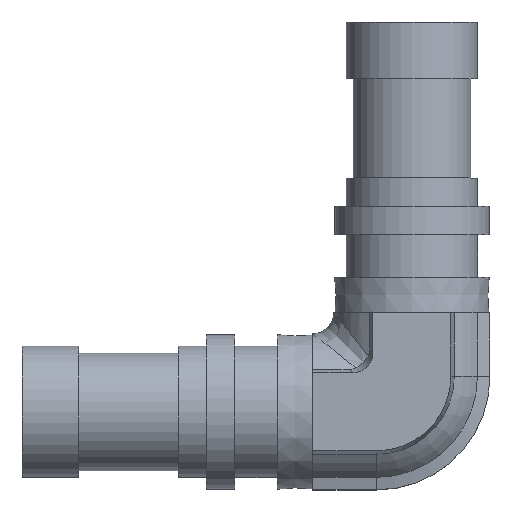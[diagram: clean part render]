
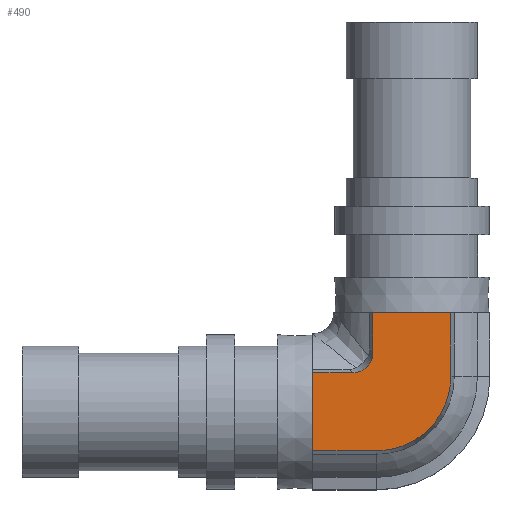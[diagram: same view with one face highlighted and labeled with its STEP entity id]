
A CAD part, top view. The second image highlights one B-rep face of the part: STEP entity #490.
In plain terms, the highlighted planar face has unit normal (0, 0, 1).
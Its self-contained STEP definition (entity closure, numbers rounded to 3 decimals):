
#37 = VECTOR ( 'NONE', #1076, 1000. ) ;
#40 = VECTOR ( 'NONE', #1085, 1000. ) ;
#104 = VECTOR ( 'NONE', #1067, 1000. ) ;
#137 =( BOUNDED_CURVE ( )  B_SPLINE_CURVE ( 3, ( #1053, #1054, #1055, #1056 ),
 .UNSPECIFIED., .F., .T. ) 
 B_SPLINE_CURVE_WITH_KNOTS ( ( 4, 4 ),
 ( 5.531, 7.035 ),
 .UNSPECIFIED. ) 
 CURVE ( )  GEOMETRIC_REPRESENTATION_ITEM ( )  RATIONAL_B_SPLINE_CURVE ( ( 1., 0.82, 0.82, 1. ) ) 
 REPRESENTATION_ITEM ( '' )  );
#140 = AXIS2_PLACEMENT_3D ( 'NONE', #1064, #1089, #1090 ) ;
#268 = VERTEX_POINT ( 'NONE', #1005 ) ;
#270 = VERTEX_POINT ( 'NONE', #1007 ) ;
#272 = VERTEX_POINT ( 'NONE', #1009 ) ;
#275 = VERTEX_POINT ( 'NONE', #1012 ) ;
#277 = VERTEX_POINT ( 'NONE', #1014 ) ;
#278 = VERTEX_POINT ( 'NONE', #1015 ) ;
#281 = VERTEX_POINT ( 'NONE', #1018 ) ;
#303 = VERTEX_POINT ( 'NONE', #1032 ) ;
#310 = EDGE_CURVE ( 'NONE', #268, #281, #137, .T. ) ;
#313 = EDGE_CURVE ( 'NONE', #278, #281, #1065, .T. ) ;
#316 = EDGE_CURVE ( 'NONE', #270, #278, #1074, .T. ) ;
#319 = EDGE_CURVE ( 'NONE', #270, #277, #1083, .T. ) ;
#321 = EDGE_CURVE ( 'NONE', #275, #277, #498, .T. ) ;
#452 = EDGE_CURVE ( 'NONE', #272, #268, #1666, .T. ) ;
#474 = EDGE_CURVE ( 'NONE', #303, #275, #1733, .T. ) ;
#475 = EDGE_CURVE ( 'NONE', #303, #272, #1736, .T. ) ;
#490 = ADVANCED_FACE ( 'NONE', ( #2086 ), #1789, .T. ) ;
#498 = CIRCLE ( 'NONE', #140, 5.25 ) ;
#643 = VECTOR ( 'NONE', #1735, 1000. ) ;
#720 = VECTOR ( 'NONE', #1668, 1000. ) ;
#764 = EDGE_LOOP ( 'NONE', ( #938, #941, #942, #940, #943, #944, #945, #946 ) ) ;
#938 = ORIENTED_EDGE ( 'NONE', *, *, #452, .T. ) ;
#940 = ORIENTED_EDGE ( 'NONE', *, *, #316, .F. ) ;
#941 = ORIENTED_EDGE ( 'NONE', *, *, #310, .T. ) ;
#942 = ORIENTED_EDGE ( 'NONE', *, *, #313, .F. ) ;
#943 = ORIENTED_EDGE ( 'NONE', *, *, #319, .T. ) ;
#944 = ORIENTED_EDGE ( 'NONE', *, *, #321, .F. ) ;
#945 = ORIENTED_EDGE ( 'NONE', *, *, #474, .F. ) ;
#946 = ORIENTED_EDGE ( 'NONE', *, *, #475, .T. ) ;
#1005 = CARTESIAN_POINT ( 'NONE',  ( -4.772, -9.097, 5.5 ) ) ;
#1007 = CARTESIAN_POINT ( 'NONE',  ( -9.022, -16.045, 5.5 ) ) ;
#1009 = CARTESIAN_POINT ( 'NONE',  ( -4.772, -6.295, 5.5 ) ) ;
#1012 = CARTESIAN_POINT ( 'NONE',  ( 0.728, -10.795, 5.5 ) ) ;
#1014 = CARTESIAN_POINT ( 'NONE',  ( -4.522, -16.045, 5.5 ) ) ;
#1015 = CARTESIAN_POINT ( 'NONE',  ( -9.022, -10.545, 5.5 ) ) ;
#1018 = CARTESIAN_POINT ( 'NONE',  ( -6.221, -10.545, 5.5 ) ) ;
#1032 = CARTESIAN_POINT ( 'NONE',  ( 0.728, -6.295, 5.5 ) ) ;
#1053 = CARTESIAN_POINT ( 'NONE',  ( -4.772, -9.097, 5.5 ) ) ;
#1054 = CARTESIAN_POINT ( 'NONE',  ( -4.772, -9.957, 5.5 ) ) ;
#1055 = CARTESIAN_POINT ( 'NONE',  ( -5.361, -10.545, 5.5 ) ) ;
#1056 = CARTESIAN_POINT ( 'NONE',  ( -6.221, -10.545, 5.5 ) ) ;
#1064 = CARTESIAN_POINT ( 'NONE',  ( -4.522, -10.795, 5.5 ) ) ;
#1065 = LINE ( 'NONE', #1066, #104 ) ;
#1066 = CARTESIAN_POINT ( 'NONE',  ( -9.022, -10.545, 5.5 ) ) ;
#1067 = DIRECTION ( 'NONE',  ( 1., 0., 0. ) ) ;
#1074 = LINE ( 'NONE', #1075, #37 ) ;
#1075 = CARTESIAN_POINT ( 'NONE',  ( -9.022, -13.295, 5.5 ) ) ;
#1076 = DIRECTION ( 'NONE',  ( 0., 1., 0. ) ) ;
#1083 = LINE ( 'NONE', #1084, #40 ) ;
#1084 = CARTESIAN_POINT ( 'NONE',  ( -9.022, -16.045, 5.5 ) ) ;
#1085 = DIRECTION ( 'NONE',  ( 1., 0., 0. ) ) ;
#1089 = DIRECTION ( 'NONE',  ( 0., 0., -1. ) ) ;
#1090 = DIRECTION ( 'NONE',  ( -1., 0., 0. ) ) ;
#1666 = LINE ( 'NONE', #1667, #720 ) ;
#1667 = CARTESIAN_POINT ( 'NONE',  ( -4.772, -6.295, 5.5 ) ) ;
#1668 = DIRECTION ( 'NONE',  ( 0., -1., 0. ) ) ;
#1733 = LINE ( 'NONE', #1734, #643 ) ;
#1734 = CARTESIAN_POINT ( 'NONE',  ( 0.728, -6.295, 5.5 ) ) ;
#1735 = DIRECTION ( 'NONE',  ( 0., -1., 0. ) ) ;
#1736 = LINE ( 'NONE', #1737, #2053 ) ;
#1737 = CARTESIAN_POINT ( 'NONE',  ( -4.522, -6.295, 5.5 ) ) ;
#1738 = DIRECTION ( 'NONE',  ( -1., 0., 0. ) ) ;
#1789 = PLANE ( 'NONE',  #2085 ) ;
#1790 = CARTESIAN_POINT ( 'NONE',  ( -2.022, -10.795, 5.5 ) ) ;
#1791 = DIRECTION ( 'NONE',  ( 0., 0., 1. ) ) ;
#1792 = DIRECTION ( 'NONE',  ( 1., 0., 0. ) ) ;
#2053 = VECTOR ( 'NONE', #1738, 1000. ) ;
#2085 = AXIS2_PLACEMENT_3D ( 'NONE', #1790, #1791, #1792 ) ;
#2086 = FACE_OUTER_BOUND ( 'NONE', #764, .T. ) ;
